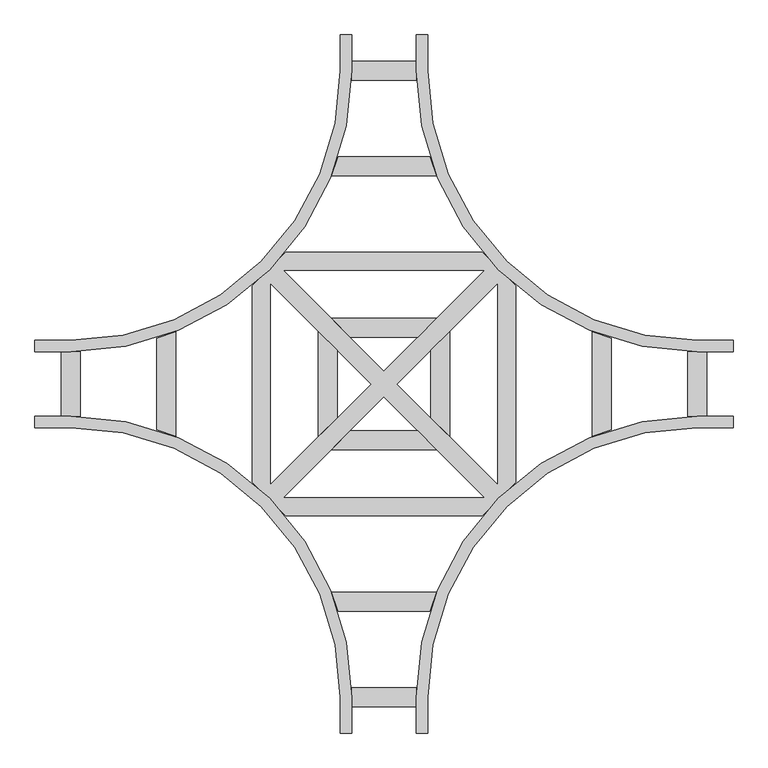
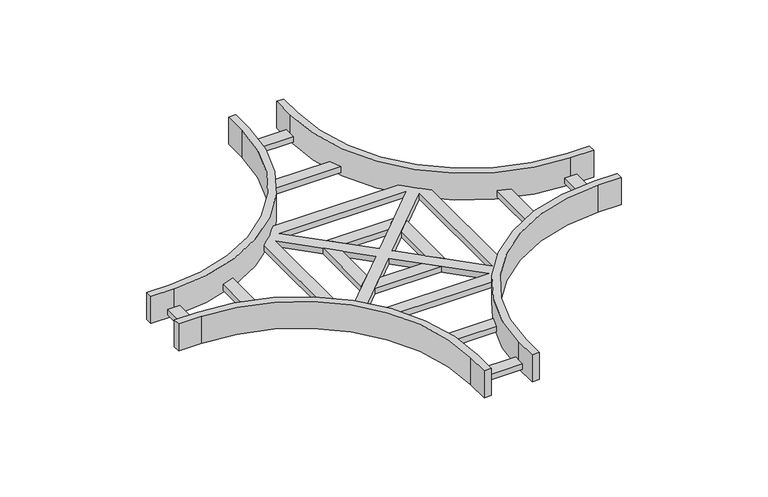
"""IFC4 building model written with IfcOpenShell, lengths in millimetres: cable carrier fitting geometry, Legrand_CableLadder_Swifts_Topaz_Cross-600R-13 : Hot Dip Galvanised (after manufacture)."""

from ifc_helpers import new_model, si_unit, point, frame, frame_2d, origin, place, context, project, spatial, polyline, circle_curve, trimmed, segment, composite_curve, outline, extrude, source, transform, mapped, element, save


def cable_carrier_fitting_03ec1c38(model_context):
    return source(origin(), model_context, "Body", "SweptSolid", [
        extrude(outline(polyline([(-146.35, 116.6515152), (-104.35, 74.6515152), (-104.35, -74.6515152), (-146.35, -116.6515152), (-146.35, 116.6515152)])), frame((0.0, 0.0, -40.0), z_axis=(0.0, 0.0, 1.0), x_axis=(1.0, 0.0, 0.0)), (0.0, 0.0, 1.0), 21.0),
        extrude(outline(polyline([(74.6515152, -104.35), (116.6515152, -146.35), (-116.6515152, -146.35), (-74.6515152, -104.35), (74.6515152, -104.35)])), frame((0.0, 0.0, -40.0), z_axis=(0.0, 0.0, 1.0), x_axis=(1.0, 0.0, 0.0)), (0.0, 0.0, 1.0), 21.0),
        extrude(outline(polyline([(74.6515152, 104.35), (-74.6515152, 104.35), (-116.6515152, 146.35), (116.6515152, 146.35), (74.6515152, 104.35)])), frame((0.0, 0.0, -40.0), z_axis=(0.0, 0.0, 1.0), x_axis=(1.0, 0.0, 0.0)), (0.0, 0.0, 1.0), 21.0),
        extrude(outline(polyline([(104.35, -74.6515152), (104.35, 74.6515152), (146.35, 116.6515152), (146.35, -116.6515152), (104.35, -74.6515152)])), frame((0.0, 0.0, -40.0), z_axis=(0.0, 0.0, 1.0), x_axis=(1.0, 0.0, 0.0)), (0.0, 0.0, 1.0), 21.0),
        extrude(outline(composite_curve([segment(polyline([(-505.85, -101.4230297), (-505.85, 101.4230297)]), True, "CONTINUOUS"), segment(trimmed(circle_curve(frame_2d((-697.0, 697.0)), 625.5), [point((-505.85, 101.4230297))], [point((-463.85, 116.5765964))], True, "CARTESIAN"), True, "CONTINUOUS"), segment(polyline([(-463.85, 116.5765964), (-463.85, -116.5765964)]), True, "CONTINUOUS"), segment(trimmed(circle_curve(frame_2d((-697.0, -697.0)), 625.5), [point((-463.85, -116.5765964))], [point((-505.85, -101.4230297))], True, "CARTESIAN"), True, "CONTINUOUS")], self_intersect=False)), frame((0.0, 0.0, -40.0), z_axis=(0.0, 0.0, 1.0), x_axis=(1.0, 0.0, 0.0)), (0.0, 0.0, 1.0), 21.0),
        extrude(outline(composite_curve([segment(trimmed(circle_curve(frame_2d((697.0, 697.0)), 625.5), [point((101.4230297, 505.85))], [point((116.5765964, 463.85))], True, "CARTESIAN"), True, "CONTINUOUS"), segment(polyline([(116.5765964, 463.85), (-116.5765964, 463.85)]), True, "CONTINUOUS"), segment(trimmed(circle_curve(frame_2d((-697.0, 697.0)), 625.5), [point((-116.5765964, 463.85))], [point((-101.4230297, 505.85))], True, "CARTESIAN"), True, "CONTINUOUS"), segment(polyline([(-101.4230297, 505.85), (101.4230297, 505.85)]), True, "CONTINUOUS")], self_intersect=False)), frame((0.0, 0.0, -40.0), z_axis=(0.0, 0.0, 1.0), x_axis=(1.0, 0.0, 0.0)), (0.0, 0.0, 1.0), 21.0),
        extrude(outline(composite_curve([segment(polyline([(463.85, -116.5765964), (463.85, 116.5765964)]), True, "CONTINUOUS"), segment(trimmed(circle_curve(frame_2d((697.0, 697.0)), 625.5), [point((463.85, 116.5765964))], [point((505.85, 101.4230297))], True, "CARTESIAN"), True, "CONTINUOUS"), segment(polyline([(505.85, 101.4230297), (505.85, -101.4230297)]), True, "CONTINUOUS"), segment(trimmed(circle_curve(frame_2d((697.0, -697.0)), 625.5), [point((505.85, -101.4230297))], [point((463.85, -116.5765964))], True, "CARTESIAN"), True, "CONTINUOUS")], self_intersect=False)), frame((0.0, 0.0, -40.0), z_axis=(0.0, 0.0, 1.0), x_axis=(1.0, 0.0, 0.0)), (0.0, 0.0, 1.0), 21.0),
        extrude(outline(composite_curve([segment(trimmed(circle_curve(frame_2d((697.0, -697.0)), 625.5), [point((116.5765964, -463.85))], [point((101.4230297, -505.85))], True, "CARTESIAN"), True, "CONTINUOUS"), segment(polyline([(101.4230297, -505.85), (-101.4230297, -505.85)]), True, "CONTINUOUS"), segment(trimmed(circle_curve(frame_2d((-697.0, -697.0)), 625.5), [point((-101.4230297, -505.85))], [point((-116.5765964, -463.85))], True, "CARTESIAN"), True, "CONTINUOUS"), segment(polyline([(-116.5765964, -463.85), (116.5765964, -463.85)]), True, "CONTINUOUS")], self_intersect=False)), frame((0.0, 0.0, -40.0), z_axis=(0.0, 0.0, 1.0), x_axis=(1.0, 0.0, 0.0)), (0.0, 0.0, 1.0), 21.0),
        extrude(outline(composite_curve([segment(trimmed(circle_curve(frame_2d((-697.0, 697.0)), 625.5), [point((-293.7, 218.8793458))], [point((-218.8793458, 293.7))], True, "CARTESIAN"), True, "CONTINUOUS"), segment(polyline([(-218.8793458, 293.7), (218.8793458, 293.7)]), True, "CONTINUOUS"), segment(trimmed(circle_curve(frame_2d((697.0, 697.0)), 625.5), [point((218.8793458, 293.7))], [point((293.7, 218.8793458))], True, "CARTESIAN"), True, "CONTINUOUS"), segment(polyline([(293.7, 218.8793458), (293.7, -218.8793458)]), True, "CONTINUOUS"), segment(trimmed(circle_curve(frame_2d((697.0, -697.0)), 625.5), [point((293.7, -218.8793458))], [point((218.8793458, -293.7))], True, "CARTESIAN"), True, "CONTINUOUS"), segment(polyline([(218.8793458, -293.7), (-218.8793458, -293.7)]), True, "CONTINUOUS"), segment(trimmed(circle_curve(frame_2d((-697.0, -697.0)), 625.5), [point((-218.8793458, -293.7))], [point((-293.7, -218.8793458))], True, "CARTESIAN"), True, "CONTINUOUS"), segment(polyline([(-293.7, -218.8793458), (-293.7, 218.8793458)]), True, "CONTINUOUS")], self_intersect=False), holes=[polyline([(-29.6984848, 0.0), (-251.7, 222.0015152), (-251.7, -222.0015152), (-29.6984848, 0.0)]), polyline([(0.0, -29.6984848), (-222.0015152, -251.7), (222.0015152, -251.7), (0.0, -29.6984848)]), polyline([(29.6984848, 0.0), (251.7, -222.0015152), (251.7, 222.0015152), (29.6984848, 0.0)]), polyline([(-222.0015152, 251.7), (0.0, 29.6984848), (222.0015152, 251.7), (-222.0015152, 251.7)])]), frame((0.0, 0.0, -40.0), z_axis=(0.0, 0.0, 1.0), x_axis=(1.0, 0.0, 0.0)), (0.0, 0.0, 1.0), 21.0),
        extrude(outline(polyline([(-71.5, 676.0), (-71.5, 718.0), (71.5, 718.0), (71.5, 676.0), (-71.5, 676.0)])), frame((0.0, 0.0, -40.0), z_axis=(0.0, 0.0, 1.0), x_axis=(1.0, 0.0, 0.0)), (0.0, 0.0, 1.0), 21.0),
        extrude(outline(polyline([(71.5, -676.0), (71.5, -718.0), (-71.5, -718.0), (-71.5, -676.0), (71.5, -676.0)])), frame((0.0, 0.0, -40.0), z_axis=(0.0, 0.0, 1.0), x_axis=(1.0, 0.0, 0.0)), (0.0, 0.0, 1.0), 21.0),
        extrude(outline(polyline([(-676.0, 71.5), (-676.0, -71.5), (-718.0, -71.5), (-718.0, 71.5), (-676.0, 71.5)])), frame((0.0, 0.0, -40.0), z_axis=(0.0, 0.0, 1.0), x_axis=(1.0, 0.0, 0.0)), (0.0, 0.0, 1.0), 21.0),
        extrude(outline(polyline([(718.0, 71.5), (718.0, -71.5), (676.0, -71.5), (676.0, 71.5), (718.0, 71.5)])), frame((0.0, 0.0, -40.0), z_axis=(0.0, 0.0, 1.0), x_axis=(1.0, 0.0, 0.0)), (0.0, 0.0, 1.0), 21.0),
        extrude(outline(composite_curve([segment(polyline([(777.0, -71.5), (777.0, -97.0), (697.0, -97.0)]), True, "CONTINUOUS"), segment(trimmed(circle_curve(frame_2d((697.0, -697.0)), 600.0), [point((697.0, -97.0))], [point((97.0, -697.0))], True, "CARTESIAN"), True, "CONTINUOUS"), segment(polyline([(97.0, -697.0), (97.0, -777.0), (71.5, -777.0), (71.5, -697.0)]), True, "CONTINUOUS"), segment(trimmed(circle_curve(frame_2d((697.0, -697.0)), 625.5), [point((71.5, -697.0))], [point((697.0, -71.5))], False, "CARTESIAN"), True, "CONTINUOUS"), segment(polyline([(697.0, -71.5), (777.0, -71.5)]), True, "CONTINUOUS")], self_intersect=False)), frame((0.0, 0.0, -50.0), z_axis=(0.0, 0.0, 1.0), x_axis=(1.0, 0.0, 0.0)), (0.0, 0.0, 1.0), 100.0),
        extrude(outline(composite_curve([segment(polyline([(-777.0, -97.0), (-777.0, -71.5), (-697.0, -71.5)]), True, "CONTINUOUS"), segment(trimmed(circle_curve(frame_2d((-697.0, -697.0)), 625.5), [point((-697.0, -71.5))], [point((-71.5, -697.0))], False, "CARTESIAN"), True, "CONTINUOUS"), segment(polyline([(-71.5, -697.0), (-71.5, -777.0), (-97.0, -777.0), (-97.0, -697.0)]), True, "CONTINUOUS"), segment(trimmed(circle_curve(frame_2d((-697.0, -697.0)), 600.0), [point((-97.0, -697.0))], [point((-697.0, -97.0))], True, "CARTESIAN"), True, "CONTINUOUS"), segment(polyline([(-697.0, -97.0), (-777.0, -97.0)]), True, "CONTINUOUS")], self_intersect=False)), frame((0.0, 0.0, -50.0), z_axis=(0.0, 0.0, 1.0), x_axis=(1.0, 0.0, 0.0)), (0.0, 0.0, 1.0), 100.0),
        extrude(outline(composite_curve([segment(polyline([(-777.0, 71.5), (-777.0, 97.0), (-697.0, 97.0)]), True, "CONTINUOUS"), segment(trimmed(circle_curve(frame_2d((-697.0, 697.0)), 600.0), [point((-697.0, 97.0))], [point((-97.0, 697.0))], True, "CARTESIAN"), True, "CONTINUOUS"), segment(polyline([(-97.0, 697.0), (-97.0, 777.0), (-71.5, 777.0), (-71.5, 697.0)]), True, "CONTINUOUS"), segment(trimmed(circle_curve(frame_2d((-697.0, 697.0)), 625.5), [point((-71.5, 697.0))], [point((-697.0, 71.5))], False, "CARTESIAN"), True, "CONTINUOUS"), segment(polyline([(-697.0, 71.5), (-777.0, 71.5)]), True, "CONTINUOUS")], self_intersect=False)), frame((0.0, 0.0, -50.0), z_axis=(0.0, 0.0, 1.0), x_axis=(1.0, 0.0, 0.0)), (0.0, 0.0, 1.0), 100.0),
        extrude(outline(composite_curve([segment(polyline([(777.0, 97.0), (777.0, 71.5), (697.0, 71.5)]), True, "CONTINUOUS"), segment(trimmed(circle_curve(frame_2d((697.0, 697.0)), 625.5), [point((697.0, 71.5))], [point((71.5, 697.0))], False, "CARTESIAN"), True, "CONTINUOUS"), segment(polyline([(71.5, 697.0), (71.5, 777.0), (97.0, 777.0), (97.0, 697.0)]), True, "CONTINUOUS"), segment(trimmed(circle_curve(frame_2d((697.0, 697.0)), 600.0), [point((97.0, 697.0))], [point((697.0, 97.0))], True, "CARTESIAN"), True, "CONTINUOUS"), segment(polyline([(697.0, 97.0), (777.0, 97.0)]), True, "CONTINUOUS")], self_intersect=False)), frame((0.0, 0.0, -50.0), z_axis=(0.0, 0.0, 1.0), x_axis=(1.0, 0.0, 0.0)), (0.0, 0.0, 1.0), 100.0),
    ])


if __name__ == "__main__":
    model = new_model("IFC4")
    model_context = context("Model", 3, world=origin())
    ifc_project = project(units=[si_unit("LENGTHUNIT", "METRE", prefix="MILLI")], contexts=[model_context])
    site = spatial("IfcSite", under=ifc_project)
    building = spatial("IfcBuilding", under=site)
    placement = place(None, origin())
    cable_carrier_fitting_shape = cable_carrier_fitting_03ec1c38(model_context)
    element("IfcCableCarrierFitting", 1, ObjectType="Legrand_CableLadder_Swifts_Topaz_Cross-600R-13 : Hot Dip Galvanised (after manufacture)", at=placement, inside=building, context=model_context, shape_type="MappedRepresentation", body=[
        mapped(cable_carrier_fitting_shape, transform((0.0, 0.0, 0.0), x_axis=(1.0, 0.0, 0.0), y_axis=(0.0, 1.0, 0.0), z_axis=(0.0, 0.0, 1.0))),
    ])
    save(model, "model.ifc")
